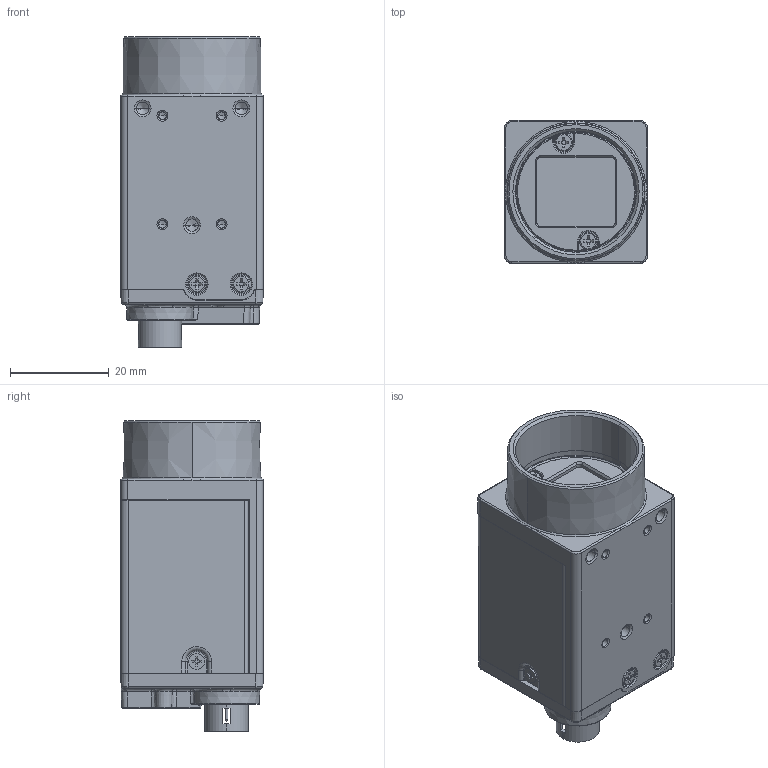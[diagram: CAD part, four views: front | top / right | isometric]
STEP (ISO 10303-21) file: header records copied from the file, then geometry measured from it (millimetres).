
FILE_DESCRIPTION((''),'2;1');
FILE_NAME('DH9-RDI000304-6031_AF0_1','2023-11-22T16:33:53',('21511'),(''),'CREO PARAMETRIC BY PTC INC, 2020184','CREO PARAMETRIC BY PTC INC, 2020184','');
FILE_SCHEMA(('CONFIG_CONTROL_DESIGN','SHAPE_APPEARANCE_LAYERS_GROUPS'));
Products named in the file (1): DH9-RDI000304-6031_AF0_1
Bounding box: 29 x 29 x 63.05 mm (x, y, z)
Volume: 36033.3 mm3; surface area: 21753.1 mm2
Topology: 1 solids, 13 shells, 2025 faces, 5441 edges, 3432 vertices
Faces by surface type: plane 1063, cylinder 565, cone 187, bspline 79, extrusion 57, torus 52, sphere 22
Entity records: 85436 total; most frequent: CARTESIAN_POINT 18670, ORIENTED_EDGE 10758, DIRECTION 9946, PRESENTATION_STYLE_ASSIGNMENT 5419, STYLED_ITEM 5380, CURVE_STYLE 5379, EDGE_CURVE 5379, VECTOR 3522
